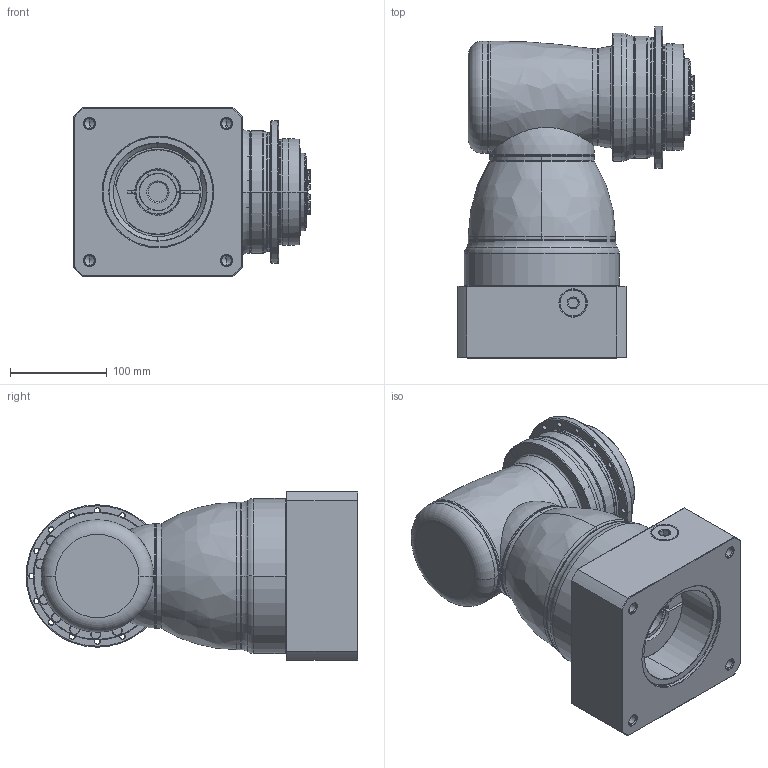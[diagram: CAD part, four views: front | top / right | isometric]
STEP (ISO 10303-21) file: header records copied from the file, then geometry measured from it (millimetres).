
FILE_DESCRIPTION((''),'2;1');
FILE_NAME('APCK110_2ST_SBG_38-P0409910201_ASM','2018-05-18T',('d01226'),(''),'PRO/ENGINEER BY PARAMETRIC TECHNOLOGY CORPORATION, 2008410','PRO/ENGINEER BY PARAMETRIC TECHNOLOGY CORPORATION, 2008410','');
FILE_SCHEMA(('CONFIG_CONTROL_DESIGN'));
Length unit declared in the file: millimetre
Products named in the file (13): P0278401003; P03594C0103; P1211400001; P1802410011; P1018500002; P1365500001; P1007501001; P1318501401; P0409910201; P0503900012; P0912554001; 21711422019; APCK110_2ST_SBG_38-P0409910201_ASM
Assembly tree (12 placements, depth 2):
  APCK110_2ST_SBG_38-P0409910201_ASM
    P0278401003
    P03594C0103
    P1211400001
    P1802410011
    P1018500002
    P1365500001
    P1007501001
    P1318501401
    P0409910201
    P0503900012
    P0912554001
    21711422019
Bounding box: 244.4 x 342.5 x 174 mm (x, y, z)
Volume: 6322756 mm3; surface area: 590158.6 mm2
Topology: 13 solids, 23 shells, 761 faces, 1797 edges, 1113 vertices
Faces by surface type: cylinder 266, cone 208, plane 159, torus 107, bspline 19, sphere 2
Entity records: 27624 total; most frequent: CARTESIAN_POINT 9431, DIRECTION 4126, ORIENTED_EDGE 3524, AXIS2_PLACEMENT_3D 1807, EDGE_CURVE 1783, VERTEX_POINT 1113, CIRCLE 1030, EDGE_LOOP 874
